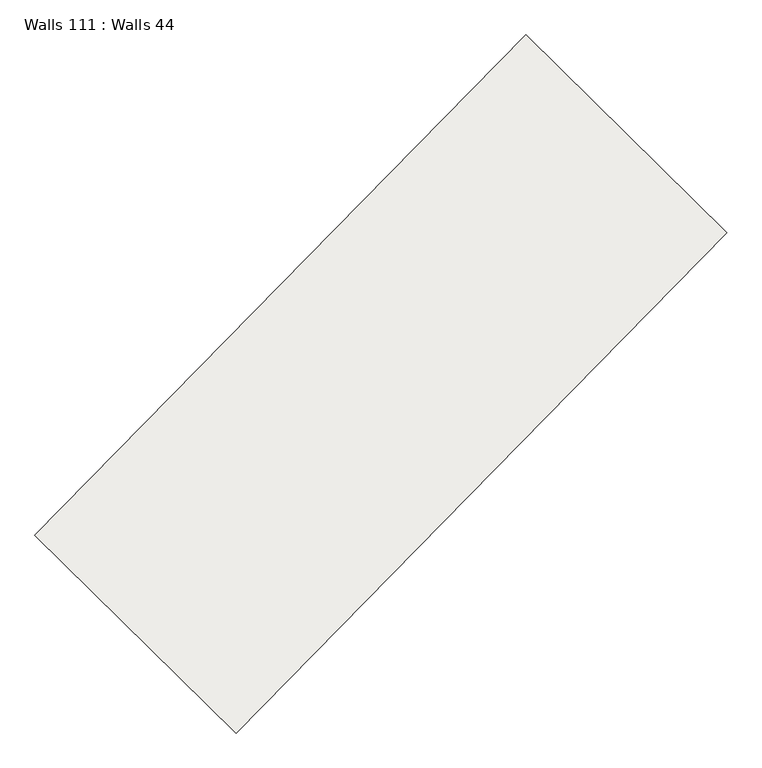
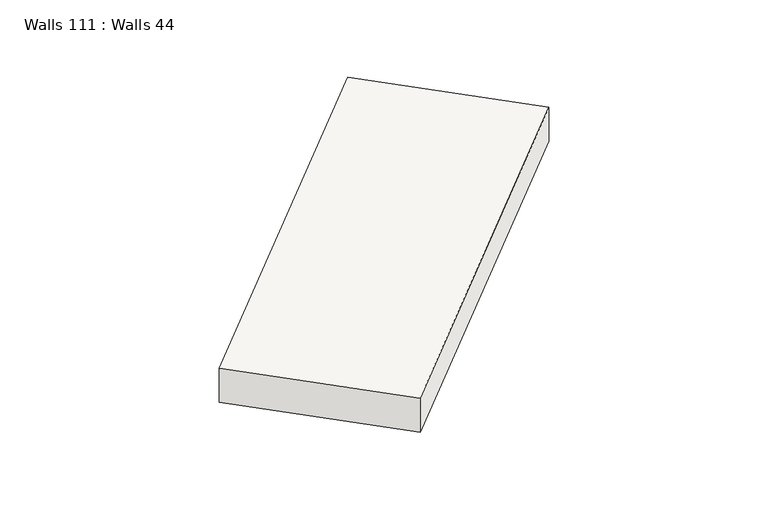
"""IFC4 building model written with IfcOpenShell, lengths in millimetres: slab geometry, Walls 111 : Walls 44."""

from ifc_helpers import new_model, si_unit, frame, origin, place, context, project, spatial, polyline, outline, extrude, source, transform, mapped, element, save


def walls_111_walls_44_702c9f90(model_context):
    return source(origin(), model_context, "Body", "SweptSolid", [
        extrude(outline(polyline([(-350.0, 0.0), (350.0, 0.0), (260.0, -8699.9999995), (-440.0, -8699.9999995), (-350.0, 0.0)])), frame((-115800.1088607, -277204.6959057, 636760.0), z_axis=(-0.7137361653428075, 0.7004146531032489, 0.0), x_axis=(0.0, 0.0, 1.0)), (0.0, 0.0, 1.0), 3499.999995),
    ])


if __name__ == "__main__":
    model = new_model("IFC4")
    model_context = context("Model", 3, world=origin())
    ifc_project = project(units=[si_unit("LENGTHUNIT", "METRE", prefix="MILLI")], contexts=[model_context])
    site = spatial("IfcSite", under=ifc_project)
    building = spatial("IfcBuilding", under=site)
    placement = place(None, origin())
    walls_111_walls_44_shape = walls_111_walls_44_702c9f90(model_context)
    element("IfcSlab", 1, ObjectType="Walls 111 : Walls 44", at=placement, inside=building, context=model_context, shape_type="MappedRepresentation", body=[
        mapped(walls_111_walls_44_shape, transform((0.0, 0.0, 0.0), x_axis=(1.0, 0.0, 0.0), y_axis=(0.0, 1.0, 0.0), z_axis=(0.0, 0.0, 1.0))),
    ])
    save(model, "model.ifc")
